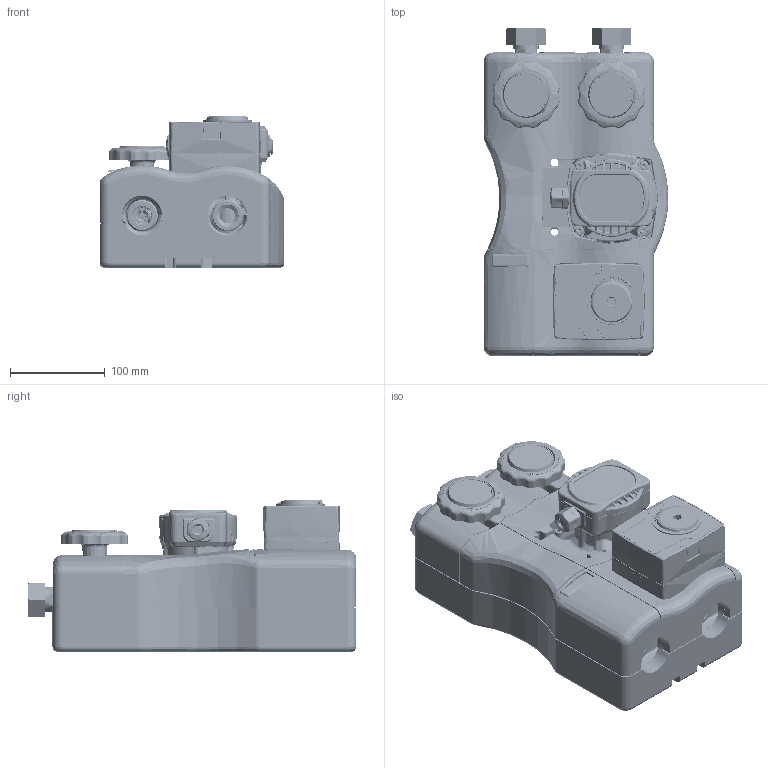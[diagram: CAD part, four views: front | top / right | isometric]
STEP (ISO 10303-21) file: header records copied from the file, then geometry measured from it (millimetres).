
FILE_DESCRIPTION (( 'STEP AP214' ), '1' );
FILE_NAME ('BPG241_Grupa_pompowa_DN20_9024100_0_3D_AFRISO.STEP', '2024-02-05T08:57:48', ( '' ), ( '' ), 'SwSTEP 2.0', 'SolidWorks 2022', '' );
FILE_SCHEMA (( 'AUTOMOTIVE_DESIGN' ));
Length unit declared in the file: millimetre
Products named in the file (55): 52905615; 30105198; 760 000 0129_Dichtung _X_F830x23x2mm HD 300 gr_X_FCn_4; 53605974; 31505091; 24105071; 58905005; 54705879; 30105199; b; 59405171; 52905057; 94105071; 59405170; M1105088; 33208055; 94105072; L0525340; 52905973; 31605332; 52705005; 33208065; 31105088; 59505407; Nut1inch; 52905085; 59505581; 52110003; 24105072; korpus; 74105072; 50705173; G1inchxG1Nut; APH-100-15-7-130; 59405172; BPG241_Grupa_pompowa_DN20_9024100_0_3D_AFRISO; 53105253; 53516004; 23208006; ARM 141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
Assembly tree (71 placements, depth 6):
  BPG241_Grupa_pompowa_DN20_9024100_0_3D_AFRISO
    74105072
      94105072
        24105072
          30105198
          33208055
          52705005  x2
          30525300
            30505300
            52905873  x2
          31605332
          52110003
        31505091
        50905872_Nera
        52005071
      31505553
      53105253
    M1105088
      31105088
      52705340  x2
      L0525340
        L0505340
        52905615  x2
      L2205340
      52905057
      53105253
      31505553
    94105071
      24105071
        30105199
        52705005  x2
        30525300
          30505300
          52905873  x2
        31605332
        23208006
          33208065
          50705173
          54305173
          52905973
          53605974
      31505091
      50905872_Nera
      52005071
    53516004
    58905005
    59505407
    53605423_D‚faut
    52905085
    59405170
    59405171
    59405172
    59405174_thermador
    52605486
    59505581
    760 000 0129_Dichtung _X_F830x23x2mm HD 300 gr_X_FCn_4  x2
    APH-100-15-7-130
    AHP180_top
    54705879  x2
    ARM 141
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Bounding box: 194.75 x 346 x 159.44 mm (x, y, z)
Volume: 4553591.7 mm3; surface area: 932456 mm2
Topology: 82 solids, 102 shells, 16700 faces, 42843 edges, 26081 vertices
Faces by surface type: bspline 5739, plane 4681, cylinder 4063, cone 1350, torus 456, sphere 411
Entity records: 932270 total; most frequent: CARTESIAN_POINT 525319, ORIENTED_EDGE 75964, DIRECTION 46729, EDGE_CURVE 37983, VERTEX_POINT 23417, AXIS2_PLACEMENT_3D 17042, B_SPLINE_CURVE_WITH_KNOTS 16272, EDGE_LOOP 15629
